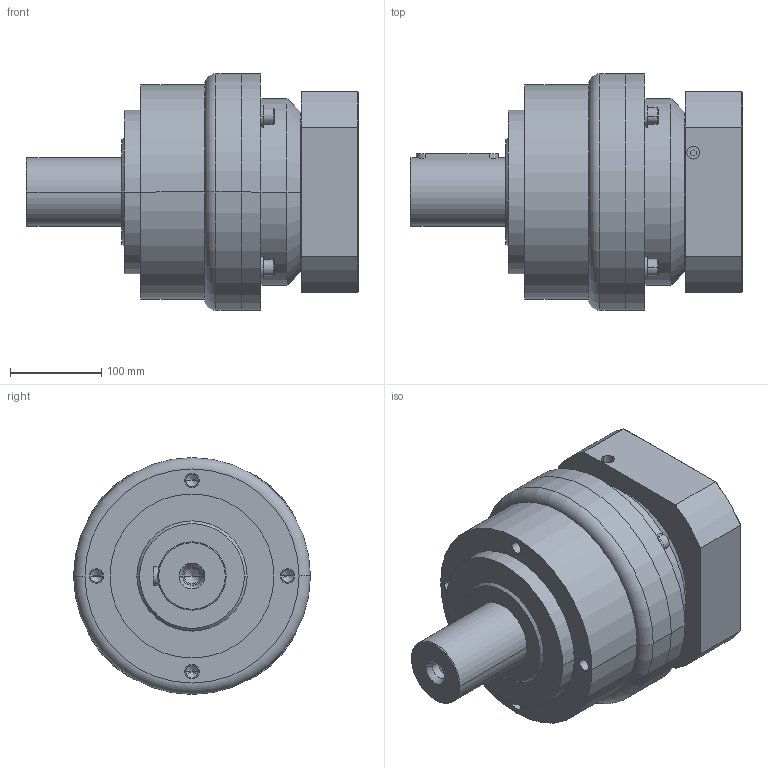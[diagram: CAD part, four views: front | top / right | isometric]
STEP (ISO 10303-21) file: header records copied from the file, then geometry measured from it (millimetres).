
FILE_DESCRIPTION((''),'2;1');
FILE_NAME('AE2351-P4170101_ASM','2005-10-31T',('D4016'),(''),'PRO/ENGINEER BY PARAMETRIC TECHNOLOGY CORPORATION, 2001280','PRO/ENGINEER BY PARAMETRIC TECHNOLOGY CORPORATION, 2001280','');
FILE_SCHEMA(('CONFIG_CONTROL_DESIGN'));
Length unit declared in the file: millimetre
Products named in the file (7): AE235-1; PK770001; 233100008; 220101005; COVER-SET-7_ASM; P4170101; AE2351-P4170101_ASM
Assembly tree (12 placements, depth 3):
  AE2351-P4170101_ASM
    AE235-1
    COVER-SET-7_ASM
      PK770001
      233100008  x4
      220101005  x4
    P4170101
Bounding box: 364.5 x 260 x 260 mm (x, y, z)
Volume: 10509105.8 mm3; surface area: 607625.1 mm2
Topology: 11 solids, 20 shells, 335 faces, 744 edges, 451 vertices
Faces by surface type: cylinder 143, plane 122, cone 52, torus 18
Entity records: 6565 total; most frequent: DIRECTION 1232, CARTESIAN_POINT 1180, ORIENTED_EDGE 948, AXIS2_PLACEMENT_3D 506, EDGE_CURVE 492, VERTEX_POINT 313, EDGE_LOOP 269, CIRCLE 253
